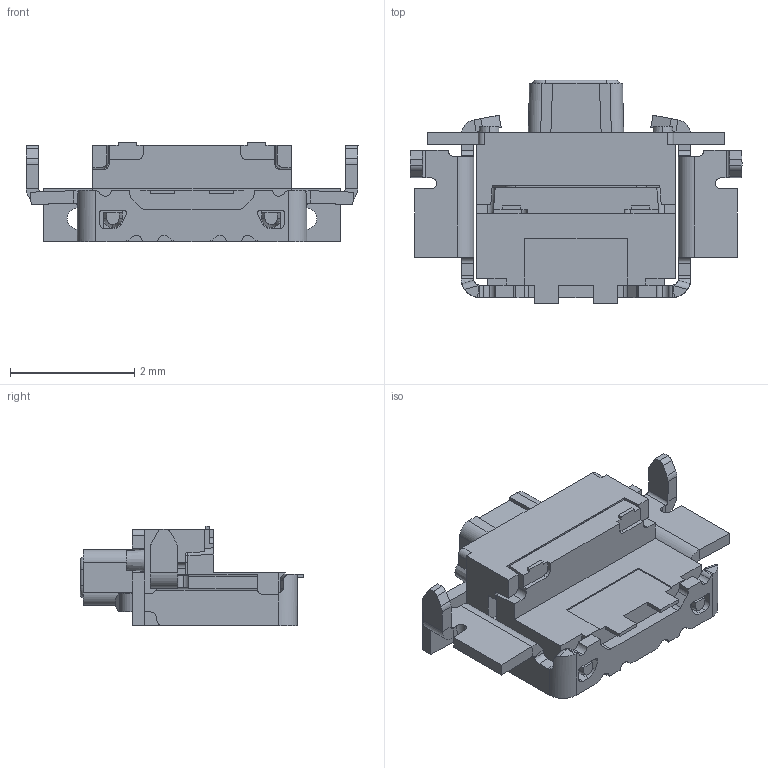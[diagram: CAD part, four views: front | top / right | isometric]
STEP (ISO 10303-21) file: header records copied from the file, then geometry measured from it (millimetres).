
FILE_DESCRIPTION (( 'STEP AP214' ), '1' );
FILE_NAME ('SKTGLBE010.STEP', '2014-02-05T12:31:14', ( 'user' ), ( 'Hewlett-Packard Company' ), 'SwSTEP 2.0', 'SolidWorks 2012', '' );
FILE_SCHEMA (( 'AUTOMOTIVE_DESIGN' ));
Length unit declared in the file: millimetre
Products named in the file (1): SKTGLBE010
Bounding box: 5.35 x 3.6 x 1.6 mm (x, y, z)
Volume: 12.2 mm3; surface area: 67.5 mm2
Topology: 1 solids, 1 shells, 377 faces, 1034 edges, 662 vertices
Faces by surface type: plane 242, cylinder 116, bspline 8, cone 7, torus 4
Entity records: 11992 total; most frequent: CARTESIAN_POINT 2366, ORIENTED_EDGE 2068, DIRECTION 1944, EDGE_CURVE 1034, LINE 736, VECTOR 736, VERTEX_POINT 662, AXIS2_PLACEMENT_3D 604
